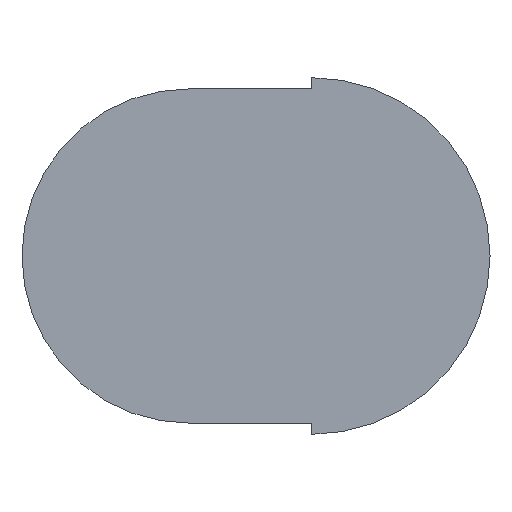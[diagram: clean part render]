
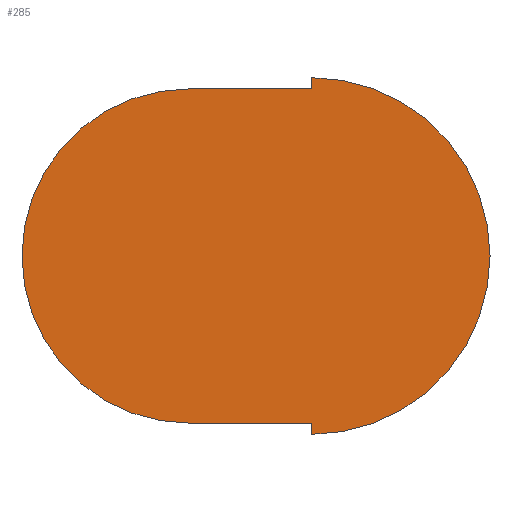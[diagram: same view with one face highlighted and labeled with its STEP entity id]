
A CAD part, front view. The second image highlights one B-rep face of the part: STEP entity #285.
In plain terms, the highlighted planar face has unit normal (0, -1, 0).
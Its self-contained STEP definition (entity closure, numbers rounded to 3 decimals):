
#20=PLANE('',#337);
#31=FACE_OUTER_BOUND('',#43,.T.);
#43=EDGE_LOOP('',(#254,#255,#256,#257,#258,#259));
#72=LINE('',#520,#104);
#73=LINE('',#522,#105);
#74=LINE('',#526,#106);
#75=LINE('',#527,#107);
#104=VECTOR('',#418,1.);
#105=VECTOR('',#419,11.);
#106=VECTOR('',#422,11.);
#107=VECTOR('',#423,1.);
#120=CIRCLE('',#338,16.);
#121=CIRCLE('',#339,15.);
#162=VERTEX_POINT('',#516);
#163=VERTEX_POINT('',#517);
#164=VERTEX_POINT('',#519);
#165=VERTEX_POINT('',#521);
#166=VERTEX_POINT('',#523);
#167=VERTEX_POINT('',#525);
#208=EDGE_CURVE('',#162,#163,#120,.T.);
#209=EDGE_CURVE('',#163,#164,#72,.T.);
#210=EDGE_CURVE('',#164,#165,#73,.T.);
#211=EDGE_CURVE('',#165,#166,#121,.T.);
#212=EDGE_CURVE('',#166,#167,#74,.T.);
#213=EDGE_CURVE('',#167,#162,#75,.T.);
#254=ORIENTED_EDGE('',*,*,#208,.T.);
#255=ORIENTED_EDGE('',*,*,#209,.T.);
#256=ORIENTED_EDGE('',*,*,#210,.T.);
#257=ORIENTED_EDGE('',*,*,#211,.T.);
#258=ORIENTED_EDGE('',*,*,#212,.T.);
#259=ORIENTED_EDGE('',*,*,#213,.T.);
#285=ADVANCED_FACE('',(#31),#20,.T.);
#337=AXIS2_PLACEMENT_3D('',#515,#414,#415);
#338=AXIS2_PLACEMENT_3D('',#518,#416,#417);
#339=AXIS2_PLACEMENT_3D('',#524,#420,#421);
#414=DIRECTION('center_axis',(0.,-1.,0.));
#415=DIRECTION('ref_axis',(0.,0.,-1.));
#416=DIRECTION('center_axis',(0.,-1.,0.));
#417=DIRECTION('ref_axis',(0.,0.,-1.));
#418=DIRECTION('',(0.,0.,-1.));
#419=DIRECTION('',(-1.,0.,0.));
#420=DIRECTION('center_axis',(0.,-1.,0.));
#421=DIRECTION('ref_axis',(0.,0.,1.));
#422=DIRECTION('',(1.,0.,0.));
#423=DIRECTION('',(0.,0.,-1.));
#515=CARTESIAN_POINT('Origin',(-15.252,-1.,0.));
#516=CARTESIAN_POINT('',(11.,-1.,-16.));
#517=CARTESIAN_POINT('',(11.,-1.,16.));
#518=CARTESIAN_POINT('Origin',(11.,-1.,0.));
#519=CARTESIAN_POINT('',(11.,-1.,15.));
#520=CARTESIAN_POINT('',(11.,-1.,16.));
#521=CARTESIAN_POINT('',(0.,-1.,15.));
#522=CARTESIAN_POINT('',(11.,-1.,15.));
#523=CARTESIAN_POINT('',(0.,-1.,-15.));
#524=CARTESIAN_POINT('Origin',(0.,-1.,0.));
#525=CARTESIAN_POINT('',(11.,-1.,-15.));
#526=CARTESIAN_POINT('',(0.,-1.,-15.));
#527=CARTESIAN_POINT('',(11.,-1.,-15.));
